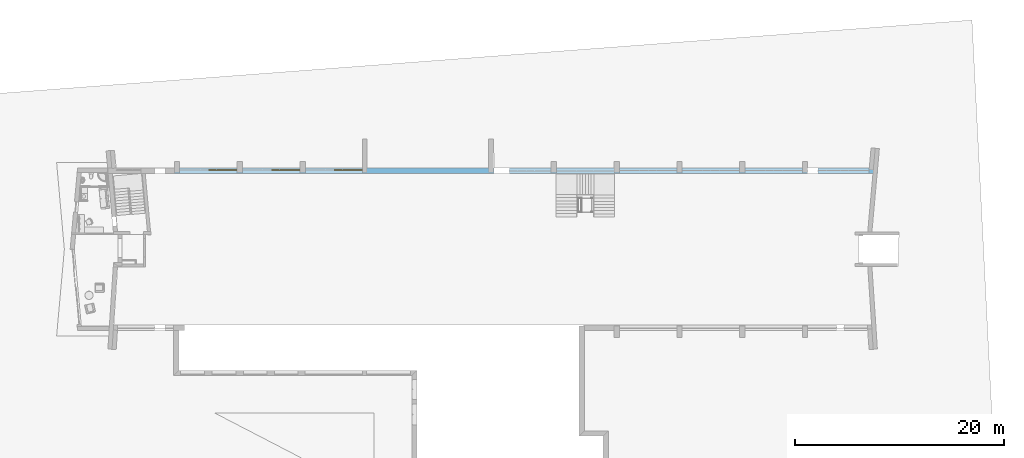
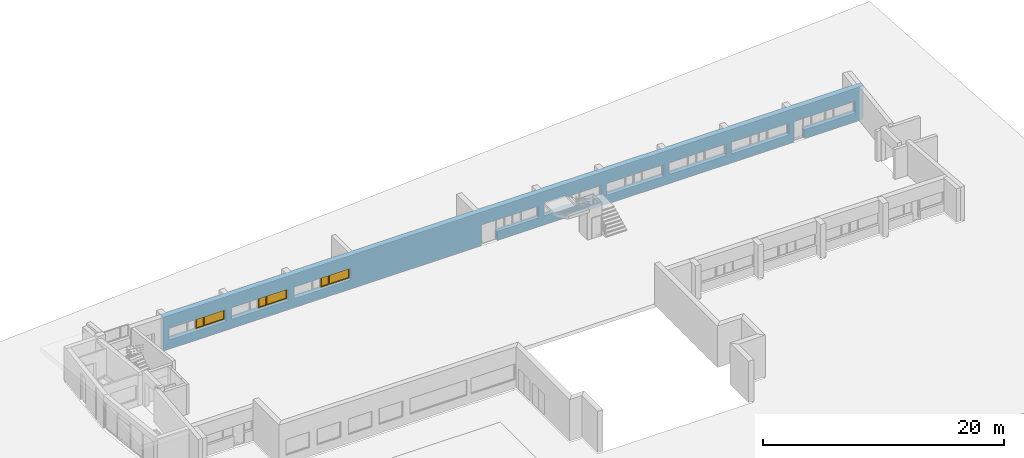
# One storey, part 6 of 36: 3 windows, 20 openings, plus 1 element that does not belong to this part.
"""IFC2X3 building model written with IfcOpenShell, lengths in millimetres."""

import ifcopenshell
import ifcopenshell.guid

model = None  # the IFC model being written
_history = None  # IfcOwnerHistory: only IFC2X3 demands one
_inside = {}  # id of a spatial element -> (the spatial element, [elements in it])
_under = {}  # id of a project, library or spatial element -> (it, [spatial elements below it])
_declared = {}  # id of a project -> (the project, [libraries it declares])
_typed = {}  # id of a type object -> (the type object, [elements of that type])
_made_of = {}  # id of a material, layer set ... -> (it, [elements and type objects made of it])


def new_model(schema):
    """Start an empty IFC model of exactly this schema.

    Asked for "IFC4X3", IfcOpenShell would pick the latest addendum, in which some entities
    have other attributes; the version numbers below select the first issue.
    IFC2X3 requires an IfcOwnerHistory on every rooted entity: one is made here for all.
    """
    global model, _history
    if schema == "IFC4X3":
        model = ifcopenshell.file(schema_version=(4, 3, 0, 0))
    else:
        model = ifcopenshell.file(schema=schema)
    _inside.clear()
    _under.clear()
    _declared.clear()
    _typed.clear()
    _made_of.clear()
    _history = None
    if model.schema == "IFC2X3":
        org = make("IfcOrganization", Name="unknown")
        user = make(
            "IfcPersonAndOrganization",
            ThePerson=make("IfcPerson", FamilyName="unknown"),
            TheOrganization=org,
        )
        app = make(
            "IfcApplication",
            ApplicationDeveloper=org,
            Version="unknown",
            ApplicationFullName="unknown",
            ApplicationIdentifier="unknown",
        )
        _history = make(
            "IfcOwnerHistory",
            OwningUser=user,
            OwningApplication=app,
            ChangeAction="ADDED",
            CreationDate=0,
        )
    return model


def make(cls, **values):
    """One entity of the class cls with the attributes given. An attribute that is None is left unset."""
    return model.create_entity(
        cls, **{name: value for name, value in values.items() if value is not None}
    )


def entity(cls, *values):
    """Any entity or typed value of the class cls, its attributes in the order of the schema. None: left unset."""
    e = model.create_entity(cls)
    for i, value in enumerate(values):
        if value is not None:
            e[i] = value
    return e


def rooted(cls, **values):
    """An entity with a GlobalId (a new one), such as an element, a storey or a relation."""
    return make(cls, GlobalId=ifcopenshell.guid.new(), OwnerHistory=_history, **values)


def si_unit(unit_type, name, prefix=None):
    """IfcSIUnit, for example si_unit("LENGTHUNIT", "METRE", prefix="MILLI")."""
    return make("IfcSIUnit", UnitType=unit_type, Prefix=prefix, Name=name)


def converted_unit(unit_type, name, factor, base, dimensions=None, offset=None):
    """IfcConversionBasedUnit, such as the inch: factor (a typed value) times the base unit."""
    return make(
        "IfcConversionBasedUnit"
        if offset is None
        else "IfcConversionBasedUnitWithOffset",
        ConversionOffset=offset,
        Dimensions=None
        if dimensions is None
        else entity("IfcDimensionalExponents", *dimensions),
        UnitType=unit_type,
        Name=name,
        ConversionFactor=make(
            "IfcMeasureWithUnit", ValueComponent=factor, UnitComponent=base
        ),
    )


def money_unit(currency):
    """IfcMonetaryUnit."""
    return make("IfcMonetaryUnit", Currency=currency)


def assignment(units):
    """IfcUnitAssignment: the units of a project."""
    return None if units is None else make("IfcUnitAssignment", Units=units)


def point(xyz):
    """IfcCartesianPoint."""
    return None if xyz is None else make("IfcCartesianPoint", Coordinates=xyz)


def direction(xyz):
    """IfcDirection."""
    return None if xyz is None else make("IfcDirection", DirectionRatios=xyz)


def frame(location, z_axis=None, x_axis=None):
    """IfcAxis2Placement3D, a coordinate frame: its origin and axes. An axis left out is left unset."""
    return make(
        "IfcAxis2Placement3D",
        Location=point(location),
        Axis=direction(z_axis),
        RefDirection=direction(x_axis),
    )


def origin_with_axes():
    """The frame at (0, 0, 0) with the z axis (0, 0, 1) and the x axis (1, 0, 0) written out."""
    return frame((0.0, 0.0, 0.0), z_axis=(0.0, 0.0, 1.0), x_axis=(1.0, 0.0, 0.0))


def place(relative_to, where):
    """IfcLocalPlacement: puts the frame where relative to a parent placement (None: the world)."""
    return make(
        "IfcLocalPlacement", PlacementRelTo=relative_to, RelativePlacement=where
    )


def context(
    kind, dimensions, precision=None, world=None, true_north=None, identifier=None
):
    """IfcGeometricRepresentationContext, for example the 3D "Model" context."""
    return make(
        "IfcGeometricRepresentationContext",
        ContextIdentifier=identifier,
        ContextType=kind,
        CoordinateSpaceDimension=dimensions,
        Precision=precision,
        WorldCoordinateSystem=world,
        TrueNorth=true_north,
    )


def subcontext(parent, identifier, kind, view, scale=None):
    """IfcGeometricRepresentationSubContext, for example "Body" below "Model"."""
    return make(
        "IfcGeometricRepresentationSubContext",
        ContextIdentifier=identifier,
        ContextType=kind,
        ParentContext=parent,
        TargetScale=scale,
        TargetView=view,
    )


def project(units=None, contexts=None):
    """IfcProject with its units and contexts."""
    return rooted(
        "IfcProject",
        Name="project",
        RepresentationContexts=contexts,
        UnitsInContext=assignment(units),
    )


def spatial(cls, under=None, at=None, **own):
    """A site, building, storey or space (cls), placed at a placement, below another one or the project."""
    s = rooted(cls, ObjectPlacement=at, **own)
    if under is not None:
        _under.setdefault(under.id(), (under, []))[1].append(s)
    return s


def polyline(points):
    """IfcPolyline through the points."""
    return make("IfcPolyline", Points=[point(p) for p in points])


def outline(outer, holes=None, kind="AREA"):
    """IfcArbitraryClosedProfileDef: a profile drawn as a closed curve; with holes, ...WithVoids."""
    if holes is None:
        return make("IfcArbitraryClosedProfileDef", ProfileType=kind, OuterCurve=outer)
    return make(
        "IfcArbitraryProfileDefWithVoids",
        ProfileType=kind,
        OuterCurve=outer,
        InnerCurves=holes,
    )


def extrude(swept, where, along, depth):
    """IfcExtrudedAreaSolid: the profile swept, set in the frame where, extruded along a direction by depth."""
    return make(
        "IfcExtrudedAreaSolid",
        SweptArea=swept,
        Position=where,
        ExtrudedDirection=direction(along),
        Depth=depth,
    )


def faces_of(points, faces, orient=None, outer=None):
    """IfcFace entities. A face is a list of loops; a loop is a list of indices into points, from 0.

    orient and outer hold one flag for each loop. By default every Orientation is true, the
    first loop of a face is its IfcFaceOuterBound and the others are IfcFaceBound.
    """
    made = []
    for i, loops in enumerate(faces):
        bounds = []
        for j, loop in enumerate(loops):
            is_outer = j == 0 if outer is None else outer[i][j]
            bounds.append(
                make(
                    "IfcFaceOuterBound" if is_outer else "IfcFaceBound",
                    Bound=make("IfcPolyLoop", Polygon=[points[k] for k in loop]),
                    Orientation=True if orient is None else orient[i][j],
                )
            )
        made.append(make("IfcFace", Bounds=bounds))
    return made


def open_shell(faces, orient=None, outer=None):
    """The faces of one IfcOpenShell. surface_model builds it on its shared points."""
    return ("IfcOpenShell", faces, orient, outer)


def faceted_brep(points, faces, orient=None, outer=None, voids=None):
    """IfcFacetedBrep: a solid bounded by flat faces; with voids (closed shells), ...WithVoids."""
    shared = [point(p) for p in points]
    hull = make("IfcClosedShell", CfsFaces=faces_of(shared, faces, orient, outer))
    if voids is None:
        return make("IfcFacetedBrep", Outer=hull)
    return make(
        "IfcFacetedBrepWithVoids",
        Outer=hull,
        Voids=[
            make(cls, CfsFaces=faces_of(shared, fs, o, b)) for cls, fs, o, b in voids
        ],
    )


def surface_model(cls, points, shells):
    """IfcFaceBasedSurfaceModel or IfcShellBasedSurfaceModel (cls): surfaces that need not close."""
    shared = [point(p) for p in points]
    made = [make(c, CfsFaces=faces_of(shared, fs, o, b)) for c, fs, o, b in shells]
    if cls == "IfcFaceBasedSurfaceModel":
        return make(cls, FbsmFaces=made)
    return make(cls, SbsmBoundary=made)


def shape(context_of_items, identifier, shape_type, items):
    """IfcShapeRepresentation: the items that make up one representation, for example the "Body"."""
    return make(
        "IfcShapeRepresentation",
        ContextOfItems=context_of_items,
        RepresentationIdentifier=identifier,
        RepresentationType=shape_type,
        Items=items,
    )


def source(mapping_origin, context_of_items, identifier, shape_type, items):
    """IfcRepresentationMap: a shape defined once, which mapped items show again and again."""
    return make(
        "IfcRepresentationMap",
        MappingOrigin=mapping_origin,
        MappedRepresentation=shape(context_of_items, identifier, shape_type, items),
    )


def transform(
    local_origin,
    x_axis=None,
    y_axis=None,
    z_axis=None,
    scale=None,
    scale2=None,
    scale3=None,
    uniform=True,
):
    """IfcCartesianTransformationOperator3D, or its non-uniform kind. x_axis, y_axis, z_axis: its Axis1, 2, 3."""
    if uniform:
        return make(
            "IfcCartesianTransformationOperator3D",
            Axis1=direction(x_axis),
            Axis2=direction(y_axis),
            LocalOrigin=point(local_origin),
            Scale=scale,
            Axis3=direction(z_axis),
        )
    return make(
        "IfcCartesianTransformationOperator3DnonUniform",
        Axis1=direction(x_axis),
        Axis2=direction(y_axis),
        LocalOrigin=point(local_origin),
        Scale=scale,
        Axis3=direction(z_axis),
        Scale2=scale2,
        Scale3=scale3,
    )


def mapped(mapping_source, mapping_target):
    """IfcMappedItem: shows the shape of a source again, moved by a transform."""
    return make(
        "IfcMappedItem", MappingSource=mapping_source, MappingTarget=mapping_target
    )


def material(Name=None, Category=None):
    """IfcMaterial."""
    return make("IfcMaterial", Name=Name, Category=Category)


def material_list(materials):
    """IfcMaterialList."""
    return make("IfcMaterialList", Materials=materials)


def layer(
    of_material, thickness, ventilated=None, Name=None, Category=None, Priority=None
):
    """IfcMaterialLayer: one layer of a wall or slab, of a material (None: an air gap)."""
    return make(
        "IfcMaterialLayer",
        Material=of_material,
        LayerThickness=thickness,
        IsVentilated=ventilated,
        Name=Name,
        Category=Category,
        Priority=Priority,
    )


def layer_set(layers, Name=None):
    """IfcMaterialLayerSet."""
    return make("IfcMaterialLayerSet", MaterialLayers=layers, LayerSetName=Name)


def layer_usage(for_layer_set, set_direction, sense, offset, extent=None):
    """IfcMaterialLayerSetUsage: how a layer set lies in its element."""
    return make(
        "IfcMaterialLayerSetUsage",
        ForLayerSet=for_layer_set,
        LayerSetDirection=set_direction,
        DirectionSense=sense,
        OffsetFromReferenceLine=offset,
        ReferenceExtent=extent,
    )


def made_of(thing, what):
    """Note that an element or type object is made of a material, layer set ...; save() writes the relation."""
    if what is not None:
        _made_of.setdefault(what.id(), (what, []))[1].append(thing)
    return thing


def type_object(cls, material=None, **own):
    """A type object (cls), such as IfcWallType, which elements share."""
    return made_of(rooted(cls, **own), material)


def element(
    cls,
    number,
    at=None,
    inside=None,
    cuts=None,
    type_object=None,
    material=None,
    context=None,
    identifier="Body",
    shape_type=None,
    held_by="IfcProductDefinitionShape",
    body=None,
    shapes=None,
    **own,
):
    """One element of the class cls, such as IfcWall. Its Tag is "e" and its number.

    at: its placement. inside: the storey or other place that contains it. cuts: it is an
    opening in that element (IfcRelVoidsElement). A single representation is given by context,
    identifier, shape_type and body (its items); several are given by shapes. held_by: the class
    of the entity that holds the representations. save() writes the other relations.
    """
    e = rooted(cls, Tag="e%d" % number, ObjectPlacement=at, **own)
    if body is not None:
        shapes = [shape(context, identifier, shape_type, body)]
    if shapes is not None:
        e.Representation = make(held_by, Representations=shapes)
    if inside is not None:
        _inside.setdefault(inside.id(), (inside, []))[1].append(e)
    if cuts is not None:
        rooted(
            "IfcRelVoidsElement", RelatingBuildingElement=cuts, RelatedOpeningElement=e
        )
    if type_object is not None:
        _typed.setdefault(type_object.id(), (type_object, []))[1].append(e)
    return made_of(e, material)


def fill(opening, filler):
    """IfcRelFillsElement: the door or window that sits in an opening."""
    return rooted(
        "IfcRelFillsElement",
        RelatingOpeningElement=opening,
        RelatedBuildingElement=filler,
    )


def aggregate(whole, parts):
    """IfcRelAggregates: a whole, such as a stair, and the parts it consists of."""
    return rooted("IfcRelAggregates", RelatingObject=whole, RelatedObjects=parts)


def save(model, path):
    """Write the relations noted so far, then the file.

    IfcRelAggregates (storeys below a building ...), IfcRelContainedInSpatialStructure (elements
    in a storey), IfcRelDefinesByType, IfcRelAssociatesMaterial and IfcRelDeclares: one each for
    every whole, place, type object, material and project.
    """
    for whole, parts in _under.values():
        aggregate(whole, parts)
    for where, things in _inside.values():
        rooted(
            "IfcRelContainedInSpatialStructure",
            RelatedElements=things,
            RelatingStructure=where,
        )
    for kind, things in _typed.values():
        rooted("IfcRelDefinesByType", RelatedObjects=things, RelatingType=kind)
    for what, things in _made_of.values():
        rooted("IfcRelAssociatesMaterial", RelatedObjects=things, RelatingMaterial=what)
    for by, libraries in _declared.values():
        rooted("IfcRelDeclares", RelatingContext=by, RelatedDefinitions=libraries)
    model.write(path)


model = new_model("IFC2X3")

# Units and contexts
model_context = context("Model", 3, precision=1e-05, world=origin_with_axes(), true_north=direction((0.0, 1.0)))
body_context = subcontext(model_context, "Body", "Model", "MODEL_VIEW")
ifc_project = project(units=[si_unit("LENGTHUNIT", "METRE", prefix="MILLI"), si_unit("AREAUNIT", "SQUARE_METRE"), si_unit("VOLUMEUNIT", "CUBIC_METRE"), converted_unit("PLANEANGLEUNIT", "DEGREE", entity("IfcPlaneAngleMeasure", 0.0174532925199), si_unit("PLANEANGLEUNIT", "RADIAN"), dimensions=[0, 0, 0, 0, 0, 0, 0]), si_unit("SOLIDANGLEUNIT", "STERADIAN"), money_unit("USD"), converted_unit("TIMEUNIT", "Year", entity("IfcTimeMeasure", 31556926.0), si_unit("TIMEUNIT", "SECOND"), dimensions=[0, 0, 0, 0, 0, 0, 0]), si_unit("MASSUNIT", "GRAM"), si_unit("THERMODYNAMICTEMPERATUREUNIT", "DEGREE_CELSIUS"), si_unit("LUMINOUSINTENSITYUNIT", "LUMEN")], contexts=[model_context])

# Site, building, storey
site_placement = place(None, origin_with_axes())
site = spatial("IfcSite", under=ifc_project, at=site_placement, Name="Site", CompositionType="ELEMENT")
building_placement = place(site_placement, origin_with_axes())
building = spatial("IfcBuilding", under=site, at=building_placement, Name="Building", CompositionType="ELEMENT")
storey_placement = place(building_placement, frame((0.0, 0.0, -3400.0), z_axis=(0.0, 0.0, 1.0), x_axis=(1.0, 0.0, 0.0)))
storey = spatial("IfcBuildingStorey", under=building, at=storey_placement, Name="1KORRUS", CompositionType="ELEMENT", Elevation=-3400.0)

# Wall, openings, windows
ifc_material_1 = material(Name="Olemasolevad seinad tellis, uus viimistlus")
ifc_layer = layer(ifc_material_1, 500.0, ventilated="UNKNOWN")
ifc_layer_set = layer_set([ifc_layer], Name="Olemasolevad seinad tellis, uus viimistlus 500")
ifc_layer_usage = layer_usage(ifc_layer_set, "AXIS2", "POSITIVE", -100.0)
wall_type = type_object("IfcWallType", Name="Olemasolevad seinad tellis, uus viimistlus 500", PredefinedType="NOTDEFINED")
wall_placement = place(storey_placement, frame((-48393.8274049, -5039.6041088, 0.0), z_axis=(0.0, 0.0, 1.0), x_axis=(1.0, 0.0, 0.0)))
wall = element("IfcWallStandardCase", 1, at=wall_placement, inside=storey, type_object=wall_type, material=ifc_layer_usage, Name="VS1", ObjectType="VS1", context=body_context, shape_type="SweptSolid", body=[
    extrude(outline(polyline([(0.0, -100.0), (67149.8194303, -100.0), (67149.8194303, 400.0), (0.0, 400.0), (0.0, -100.0)])), origin_with_axes(), (0.0, 0.0, 1.0), 3400.0),
])
opening_1_placement = place(wall_placement, frame((1878.53070154, 0.0, 900.0), z_axis=(0.0, 0.0, 1.0), x_axis=(1.0, 0.0, 0.0)))
element("IfcOpeningElement", 2, at=opening_1_placement, cuts=wall, Name="Olemasolevad aknad jäävad", context=body_context, shape_type="SweptSolid", body=[
    extrude(outline(polyline([(-1375.0, 1200.0), (-1375.0, 0.0), (1375.0, 0.0), (1375.0, 1200.0), (-1375.0, 1200.0)])), frame((0.0, 250.0, 0.0), z_axis=(0.0, -1.0, 0.0), x_axis=(1.0, 0.0, 0.0)), (0.0, 0.0, 1.0), 850.0),
    extrude(outline(polyline([(-1375.0, 0.0), (-1375.0, -1200.0), (1375.0, -1200.0), (1375.0, 0.0), (-1375.0, 0.0)])), frame((0.0, 250.0, 0.0), z_axis=(0.0, 1.0, 0.0), x_axis=(1.0, 0.0, 0.0)), (0.0, 0.0, 1.0), 650.0),
])
opening_2_placement = place(wall_placement, frame((7878.53070154, 0.0, 900.0), z_axis=(0.0, 0.0, 1.0), x_axis=(1.0, 0.0, 0.0)))
element("IfcOpeningElement", 3, at=opening_2_placement, cuts=wall, Name="Olemasolevad aknad jäävad", context=body_context, shape_type="SweptSolid", body=[
    extrude(outline(polyline([(-1375.0, 1200.0), (-1375.0, 0.0), (1375.0, 0.0), (1375.0, 1200.0), (-1375.0, 1200.0)])), frame((0.0, 250.0, 0.0), z_axis=(0.0, -1.0, 0.0), x_axis=(1.0, 0.0, 0.0)), (0.0, 0.0, 1.0), 850.0),
    extrude(outline(polyline([(-1375.0, 0.0), (-1375.0, -1200.0), (1375.0, -1200.0), (1375.0, 0.0), (-1375.0, 0.0)])), frame((0.0, 250.0, 0.0), z_axis=(0.0, 1.0, 0.0), x_axis=(1.0, 0.0, 0.0)), (0.0, 0.0, 1.0), 650.0),
])
opening_3_placement = place(wall_placement, frame((13878.5307015, 0.0, 900.0), z_axis=(0.0, 0.0, 1.0), x_axis=(1.0, 0.0, 0.0)))
element("IfcOpeningElement", 4, at=opening_3_placement, cuts=wall, Name="Olemasolevad aknad jäävad", context=body_context, shape_type="SweptSolid", body=[
    extrude(outline(polyline([(-1375.0, 1200.0), (-1375.0, 0.0), (1375.0, 0.0), (1375.0, 1200.0), (-1375.0, 1200.0)])), frame((0.0, 250.0, 0.0), z_axis=(0.0, -1.0, 0.0), x_axis=(1.0, 0.0, 0.0)), (0.0, 0.0, 1.0), 850.0),
    extrude(outline(polyline([(-1375.0, 0.0), (-1375.0, -1200.0), (1375.0, -1200.0), (1375.0, 0.0), (-1375.0, 0.0)])), frame((0.0, 250.0, 0.0), z_axis=(0.0, 1.0, 0.0), x_axis=(1.0, 0.0, 0.0)), (0.0, 0.0, 1.0), 650.0),
])
opening_4_placement = place(wall_placement, frame((4628.53070154, 0.0, 900.0), z_axis=(0.0, 0.0, 1.0), x_axis=(1.0, 0.0, 0.0)))
opening_4 = element("IfcOpeningElement", 5, at=opening_4_placement, cuts=wall, Name="Olemasolevad aknad jäävad", context=body_context, shape_type="SweptSolid", body=[
    extrude(outline(polyline([(1375.0, 1200.0), (-1375.0, 1200.0), (-1375.0, 0.0), (1375.0, 0.0), (1375.0, 1200.0)])), frame((0.0, 250.0, 0.0), z_axis=(0.0, -1.0, 0.0), x_axis=(1.0, 0.0, 0.0)), (0.0, 0.0, 1.0), 850.0),
    extrude(outline(polyline([(1375.0, 0.0), (-1375.0, 0.0), (-1375.0, -1200.0), (1375.0, -1200.0), (1375.0, 0.0)])), frame((0.0, 250.0, 0.0), z_axis=(0.0, 1.0, 0.0), x_axis=(1.0, 0.0, 0.0)), (0.0, 0.0, 1.0), 650.0),
])
opening_5_placement = place(wall_placement, frame((10628.5307015, 0.0, 900.0), z_axis=(0.0, 0.0, 1.0), x_axis=(1.0, 0.0, 0.0)))
opening_5 = element("IfcOpeningElement", 6, at=opening_5_placement, cuts=wall, Name="Olemasolevad aknad jäävad", context=body_context, shape_type="SweptSolid", body=[
    extrude(outline(polyline([(1375.0, 1200.0), (-1375.0, 1200.0), (-1375.0, 0.0), (1375.0, 0.0), (1375.0, 1200.0)])), frame((0.0, 250.0, 0.0), z_axis=(0.0, -1.0, 0.0), x_axis=(1.0, 0.0, 0.0)), (0.0, 0.0, 1.0), 850.0),
    extrude(outline(polyline([(1375.0, 0.0), (-1375.0, 0.0), (-1375.0, -1200.0), (1375.0, -1200.0), (1375.0, 0.0)])), frame((0.0, 250.0, 0.0), z_axis=(0.0, 1.0, 0.0), x_axis=(1.0, 0.0, 0.0)), (0.0, 0.0, 1.0), 650.0),
])
opening_6_placement = place(wall_placement, frame((16616.9651775, 0.0, 900.0), z_axis=(0.0, 0.0, 1.0), x_axis=(1.0, 0.0, 0.0)))
opening_6 = element("IfcOpeningElement", 7, at=opening_6_placement, cuts=wall, Name="Olemasolevad aknad jäävad", context=body_context, shape_type="SweptSolid", body=[
    extrude(outline(polyline([(1375.0, 1200.0), (-1375.0, 1200.0), (-1375.0, 0.0), (1375.0, 0.0), (1375.0, 1200.0)])), frame((0.0, 250.0, 0.0), z_axis=(0.0, -1.0, 0.0), x_axis=(1.0, 0.0, 0.0)), (0.0, 0.0, 1.0), 850.0),
    extrude(outline(polyline([(1375.0, 0.0), (-1375.0, 0.0), (-1375.0, -1200.0), (1375.0, -1200.0), (1375.0, 0.0)])), frame((0.0, 250.0, 0.0), z_axis=(0.0, 1.0, 0.0), x_axis=(1.0, 0.0, 0.0)), (0.0, 0.0, 1.0), 650.0),
])
opening_7_placement = place(wall_placement, frame((34803.5307015, 0.0, 900.0), z_axis=(0.0, 0.0, 1.0), x_axis=(1.0, 0.0, 0.0)))
element("IfcOpeningElement", 8, at=opening_7_placement, cuts=wall, Name="Olemasolevad aknad jäävad", context=body_context, shape_type="SweptSolid", body=[
    extrude(outline(polyline([(1200.0, 0.0), (-1200.0, 0.0), (-1200.0, -1200.0), (1200.0, -1200.0), (1200.0, 0.0)])), frame((0.0, 100.0, 0.0), z_axis=(0.0, 1.0, 0.0), x_axis=(1.0, 0.0, 0.0)), (0.0, 0.0, 1.0), 800.0),
    extrude(outline(polyline([(1200.0, 1200.0), (-1200.0, 1200.0), (-1200.0, 0.0), (1200.0, 0.0), (1200.0, 1200.0)])), frame((0.0, 100.0, 0.0), z_axis=(0.0, -1.0, 0.0), x_axis=(1.0, 0.0, 0.0)), (0.0, 0.0, 1.0), 700.0),
])
opening_8_placement = place(wall_placement, frame((40625.1633636, 0.0, 900.0), z_axis=(0.0, 0.0, 1.0), x_axis=(1.0, 0.0, 0.0)))
element("IfcOpeningElement", 9, at=opening_8_placement, cuts=wall, Name="Olemasolevad aknad jäävad", context=body_context, shape_type="SweptSolid", body=[
    extrude(outline(polyline([(1400.0, 0.0), (-1400.0, 0.0), (-1400.0, -1200.0), (1400.0, -1200.0), (1400.0, 0.0)])), frame((0.0, 100.0, 0.0), z_axis=(0.0, 1.0, 0.0), x_axis=(1.0, 0.0, 0.0)), (0.0, 0.0, 1.0), 800.0),
    extrude(outline(polyline([(1400.0, 1200.0), (-1400.0, 1200.0), (-1400.0, 0.0), (1400.0, 0.0), (1400.0, 1200.0)])), frame((0.0, 100.0, 0.0), z_axis=(0.0, -1.0, 0.0), x_axis=(1.0, 0.0, 0.0)), (0.0, 0.0, 1.0), 700.0),
])
opening_9_placement = place(wall_placement, frame((37871.3218818, 0.0, 900.0), z_axis=(0.0, 0.0, 1.0), x_axis=(1.0, 0.0, 0.0)))
element("IfcOpeningElement", 10, at=opening_9_placement, cuts=wall, Name="Olemasolevad aknad jäävad", context=body_context, shape_type="SweptSolid", body=[
    extrude(outline(polyline([(-1367.791, 0.0), (-1367.791, -1200.0), (1367.791, -1200.0), (1367.791, 0.0), (-1367.791, 0.0)])), frame((0.0, 150.0, 0.0), z_axis=(0.0, 1.0, 0.0), x_axis=(1.0, 0.0, 0.0)), (0.0, 0.0, 1.0), 750.0),
    extrude(outline(polyline([(-1367.791, 1200.0), (-1367.791, 0.0), (1367.791, 0.0), (1367.791, 1200.0), (-1367.791, 1200.0)])), frame((0.0, 150.0, 0.0), z_axis=(0.0, -1.0, 0.0), x_axis=(1.0, 0.0, 0.0)), (0.0, 0.0, 1.0), 750.0),
])
opening_10_placement = place(wall_placement, frame((46628.5307015, 0.0, 900.0), z_axis=(0.0, 0.0, 1.0), x_axis=(1.0, 0.0, 0.0)))
element("IfcOpeningElement", 11, at=opening_10_placement, cuts=wall, Name="Olemasolevad aknad jäävad", context=body_context, shape_type="SweptSolid", body=[
    extrude(outline(polyline([(1375.0, 1200.0), (-1375.0, 1200.0), (-1375.0, 0.0), (1375.0, 0.0), (1375.0, 1200.0)])), frame((0.0, 150.0, 0.0), z_axis=(0.0, -1.0, 0.0), x_axis=(1.0, 0.0, 0.0)), (0.0, 0.0, 1.0), 750.0),
    extrude(outline(polyline([(1375.0, 0.0), (-1375.0, 0.0), (-1375.0, -1200.0), (1375.0, -1200.0), (1375.0, 0.0)])), frame((0.0, 150.0, 0.0), z_axis=(0.0, 1.0, 0.0), x_axis=(1.0, 0.0, 0.0)), (0.0, 0.0, 1.0), 750.0),
])
opening_11_placement = place(wall_placement, frame((43878.5307015, 0.0, 900.0), z_axis=(0.0, 0.0, 1.0), x_axis=(1.0, 0.0, 0.0)))
element("IfcOpeningElement", 12, at=opening_11_placement, cuts=wall, Name="Olemasolevad aknad jäävad", context=body_context, shape_type="SweptSolid", body=[
    extrude(outline(polyline([(-1375.0, 1200.0), (-1375.0, 0.0), (1375.0, 0.0), (1375.0, 1200.0), (-1375.0, 1200.0)])), frame((0.0, 200.0, 0.0), z_axis=(0.0, -1.0, 0.0), x_axis=(1.0, 0.0, 0.0)), (0.0, 0.0, 1.0), 800.0),
    extrude(outline(polyline([(-1375.0, 0.0), (-1375.0, -1200.0), (1375.0, -1200.0), (1375.0, 0.0), (-1375.0, 0.0)])), frame((0.0, 200.0, 0.0), z_axis=(0.0, 1.0, 0.0), x_axis=(1.0, 0.0, 0.0)), (0.0, 0.0, 1.0), 700.0),
])
opening_12_placement = place(wall_placement, frame((52635.3834465, 0.0, 900.0), z_axis=(0.0, 0.0, 1.0), x_axis=(1.0, 0.0, 0.0)))
element("IfcOpeningElement", 13, at=opening_12_placement, cuts=wall, Name="Olemasolevad aknad jäävad", context=body_context, shape_type="SweptSolid", body=[
    extrude(outline(polyline([(1376.809, 1200.0), (-1376.809, 1200.0), (-1376.809, 0.0), (1376.809, 0.0), (1376.809, 1200.0)])), frame((0.0, 150.0, 0.0), z_axis=(0.0, -1.0, 0.0), x_axis=(1.0, 0.0, 0.0)), (0.0, 0.0, 1.0), 750.0),
    extrude(outline(polyline([(1376.809, 0.0), (-1376.809, 0.0), (-1376.809, -1200.0), (1376.809, -1200.0), (1376.809, 0.0)])), frame((0.0, 150.0, 0.0), z_axis=(0.0, 1.0, 0.0), x_axis=(1.0, 0.0, 0.0)), (0.0, 0.0, 1.0), 750.0),
])
opening_13_placement = place(wall_placement, frame((49883.9987013, 0.0, 900.0), z_axis=(0.0, 0.0, 1.0), x_axis=(1.0, 0.0, 0.0)))
element("IfcOpeningElement", 14, at=opening_13_placement, cuts=wall, Name="Olemasolevad aknad jäävad", context=body_context, shape_type="SweptSolid", body=[
    extrude(outline(polyline([(-1375.0, 1200.0), (-1375.0, 0.0), (1375.0, 0.0), (1375.0, 1200.0), (-1375.0, 1200.0)])), frame((0.0, 200.0, 0.0), z_axis=(0.0, -1.0, 0.0), x_axis=(1.0, 0.0, 0.0)), (0.0, 0.0, 1.0), 800.0),
    extrude(outline(polyline([(-1375.0, 0.0), (-1375.0, -1200.0), (1375.0, -1200.0), (1375.0, 0.0), (-1375.0, 0.0)])), frame((0.0, 200.0, 0.0), z_axis=(0.0, 1.0, 0.0), x_axis=(1.0, 0.0, 0.0)), (0.0, 0.0, 1.0), 700.0),
])
opening_14_placement = place(wall_placement, frame((58631.8843372, 0.0, 900.0), z_axis=(0.0, 0.0, 1.0), x_axis=(1.0, 0.0, 0.0)))
element("IfcOpeningElement", 15, at=opening_14_placement, cuts=wall, Name="Olemasolevad aknad jäävad", context=body_context, shape_type="SweptSolid", body=[
    extrude(outline(polyline([(1371.646, 1200.0), (-1371.646, 1200.0), (-1371.646, 0.0), (1371.646, 0.0), (1371.646, 1200.0)])), frame((0.0, 150.0, 0.0), z_axis=(0.0, -1.0, 0.0), x_axis=(1.0, 0.0, 0.0)), (0.0, 0.0, 1.0), 750.0),
    extrude(outline(polyline([(1371.646, 0.0), (-1371.646, 0.0), (-1371.646, -1200.0), (1371.646, -1200.0), (1371.646, 0.0)])), frame((0.0, 150.0, 0.0), z_axis=(0.0, 1.0, 0.0), x_axis=(1.0, 0.0, 0.0)), (0.0, 0.0, 1.0), 750.0),
])
opening_15_placement = place(wall_placement, frame((55886.6217615, 0.0, 900.0), z_axis=(0.0, 0.0, 1.0), x_axis=(1.0, 0.0, 0.0)))
element("IfcOpeningElement", 16, at=opening_15_placement, cuts=wall, Name="Olemasolevad aknad jäävad", context=body_context, shape_type="SweptSolid", body=[
    extrude(outline(polyline([(-1375.0, 1200.0), (-1375.0, 0.0), (1375.0, 0.0), (1375.0, 1200.0), (-1375.0, 1200.0)])), frame((0.0, 200.0, 0.0), z_axis=(0.0, -1.0, 0.0), x_axis=(1.0, 0.0, 0.0)), (0.0, 0.0, 1.0), 800.0),
    extrude(outline(polyline([(-1375.0, 0.0), (-1375.0, -1200.0), (1375.0, -1200.0), (1375.0, 0.0), (-1375.0, 0.0)])), frame((0.0, 200.0, 0.0), z_axis=(0.0, 1.0, 0.0), x_axis=(1.0, 0.0, 0.0)), (0.0, 0.0, 1.0), 700.0),
])
opening_16_placement = place(wall_placement, frame((64995.2517085, 0.0, 900.0), z_axis=(0.0, 0.0, 1.0), x_axis=(1.0, 0.0, 0.0)))
element("IfcOpeningElement", 17, at=opening_16_placement, cuts=wall, Name="Olemasolevad aknad jäävad", context=body_context, shape_type="SweptSolid", body=[
    extrude(outline(polyline([(1375.0, 1200.0), (-1375.0, 1200.0), (-1375.0, 0.0), (1375.0, 0.0), (1375.0, 1200.0)])), frame((0.0, 150.0, 0.0), z_axis=(0.0, -1.0, 0.0), x_axis=(1.0, 0.0, 0.0)), (0.0, 0.0, 1.0), 750.0),
    extrude(outline(polyline([(1375.0, 0.0), (-1375.0, 0.0), (-1375.0, -1200.0), (1375.0, -1200.0), (1375.0, 0.0)])), frame((0.0, 150.0, 0.0), z_axis=(0.0, 1.0, 0.0), x_axis=(1.0, 0.0, 0.0)), (0.0, 0.0, 1.0), 750.0),
])
opening_17_placement = place(wall_placement, frame((32810.8244307, 0.0, 900.0), z_axis=(0.0, 0.0, 1.0), x_axis=(1.0, 0.0, 0.0)))
element("IfcOpeningElement", 18, at=opening_17_placement, cuts=wall, Name="Olemasolevad aknad jäävad", context=body_context, shape_type="SweptSolid", body=[
    extrude(outline(polyline([(792.706, 0.0), (-792.706, 0.0), (-792.706, -1200.0), (792.706, -1200.0), (792.706, 0.0)])), frame((0.0, 100.0, 0.0), z_axis=(0.0, 1.0, 0.0), x_axis=(1.0, 0.0, 0.0)), (0.0, 0.0, 1.0), 800.0),
    extrude(outline(polyline([(792.706, 1200.0), (-792.706, 1200.0), (-792.706, 0.0), (792.706, 0.0), (792.706, 1200.0)])), frame((0.0, 100.0, 0.0), z_axis=(0.0, -1.0, 0.0), x_axis=(1.0, 0.0, 0.0)), (0.0, 0.0, 1.0), 700.0),
])
opening_18_placement = place(wall_placement, frame((62561.891205, 0.0, 900.0), z_axis=(0.0, 0.0, 1.0), x_axis=(1.0, 0.0, 0.0)))
element("IfcOpeningElement", 19, at=opening_18_placement, cuts=wall, Name="Olemasolevad aknad jäävad", context=body_context, shape_type="SweptSolid", body=[
    extrude(outline(polyline([(1058.361, 1200.0), (-1058.361, 1200.0), (-1058.361, 0.0), (1058.361, 0.0), (1058.361, 1200.0)])), frame((0.0, 150.0, 0.0), z_axis=(0.0, -1.0, 0.0), x_axis=(1.0, 0.0, 0.0)), (0.0, 0.0, 1.0), 750.0),
    extrude(outline(polyline([(1058.361, 0.0), (-1058.361, 0.0), (-1058.361, -1200.0), (1058.361, -1200.0), (1058.361, 0.0)])), frame((0.0, 150.0, 0.0), z_axis=(0.0, 1.0, 0.0), x_axis=(1.0, 0.0, 0.0)), (0.0, 0.0, 1.0), 750.0),
])
opening_19_placement = place(wall_placement, frame((61003.5307015, 0.0, -4.66441168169), z_axis=(0.0, 0.0, 1.0), x_axis=(1.0, 0.0, 0.0)))
element("IfcOpeningElement", 20, at=opening_19_placement, cuts=wall, Name="ava", context=body_context, shape_type="SweptSolid", body=[
    extrude(outline(polyline([(-500.0, 2100.0), (-500.0, 0.0), (500.0, 0.0), (500.0, 2100.0), (-500.0, 2100.0)])), frame((0.0, 200.0, 0.0), z_axis=(0.0, 1.0, 0.0), x_axis=(-1.0, 0.0, 0.0)), (0.0, 0.0, -1.0), 800.0),
    extrude(outline(polyline([(-500.0, 0.0), (-500.0, -2100.0), (500.0, -2100.0), (500.0, 0.0), (-500.0, 0.0)])), frame((0.0, 200.0, 0.0), z_axis=(0.0, -1.0, 0.0), x_axis=(-1.0, 0.0, 0.0)), (0.0, 0.0, -1.0), 700.0),
])
opening_20_placement = place(wall_placement, frame((31268.1181599, 0.0, 0.0), z_axis=(0.0, 0.0, 1.0), x_axis=(1.0, 0.0, 0.0)))
element("IfcOpeningElement", 21, at=opening_20_placement, cuts=wall, Name="ava", context=body_context, shape_type="SweptSolid", body=[
    extrude(outline(polyline([(-750.0, 2100.0), (-750.0, 0.0), (750.0, 0.0), (750.0, 2100.0), (-750.0, 2100.0)])), frame((0.0, 200.0, 0.0), z_axis=(0.0, -1.0, 0.0), x_axis=(1.0, 0.0, 0.0)), (0.0, 0.0, 1.0), 800.0),
    extrude(outline(polyline([(-750.0, 0.0), (-750.0, -2100.0), (750.0, -2100.0), (750.0, 0.0), (-750.0, 0.0)])), frame((0.0, 200.0, 0.0), z_axis=(0.0, 1.0, 0.0), x_axis=(1.0, 0.0, 0.0)), (0.0, 0.0, 1.0), 700.0),
])
ifc_material_2 = material(Name="Background")
ifc_material_list = material_list([ifc_material_2])
window_style = type_object("IfcWindowStyle", Name="Double Window 19", ConstructionType="NOTDEFINED", OperationType="DOUBLE_PANEL_VERTICAL", ParameterTakesPrecedence=False, Sizeable=False)
shared_shape = source(origin_with_axes(), body_context, "Body", "SurfaceModel", [
    faceted_brep([(1350.0, -150.0, 1150.0), (1350.0, -175.0, 1150.0), (1325.0, -175.0, 1150.0), (1325.0, -200.0, 1150.0), (1375.0, -200.0, 1150.0), (1375.0, -150.0, 1150.0), (1350.0, -150.0, 50.0), (1350.0, -175.0, 50.0), (1325.0, -175.0, 50.0), (1325.0, -200.0, 50.0), (1375.0, -200.0, 50.0), (1375.0, -150.0, 50.0)], [[[0, 1, 2, 3, 4, 5]], [[1, 0, 6, 7]], [[8, 2, 1, 7]], [[2, 8, 9, 3]], [[4, 3, 9, 10]], [[5, 4, 10, 11]], [[6, 0, 5, 11]], [[7, 6, 11, 10, 9, 8]]]),
    faceted_brep([(-1325.0, -175.0, 1150.0), (-1350.0, -175.0, 1150.0), (-1350.0, -150.0, 1150.0), (-1375.0, -150.0, 1150.0), (-1375.0, -200.0, 1150.0), (-1325.0, -200.0, 1150.0), (-1325.0, -175.0, 50.0), (-1350.0, -175.0, 50.0), (-1350.0, -150.0, 50.0), (-1375.0, -150.0, 50.0), (-1375.0, -200.0, 50.0), (-1325.0, -200.0, 50.0)], [[[0, 1, 2, 3, 4, 5]], [[1, 0, 6, 7]], [[8, 2, 1, 7]], [[2, 8, 9, 3]], [[9, 10, 4, 3]], [[10, 11, 5, 4]], [[6, 0, 5, 11]], [[7, 6, 11, 10, 9, 8]]]),
    faceted_brep([(-525.0, -175.0, 1150.0), (-550.0, -175.0, 1150.0), (-550.0, -150.0, 1150.0), (-600.0, -150.0, 1150.0), (-600.0, -175.0, 1150.0), (-625.0, -175.0, 1150.0), (-625.0, -200.0, 1150.0), (-525.0, -200.0, 1150.0), (-525.0, -175.0, 50.0), (-550.0, -175.0, 50.0), (-550.0, -150.0, 50.0), (-600.0, -150.0, 50.0), (-600.0, -175.0, 50.0), (-625.0, -175.0, 50.0), (-625.0, -200.0, 50.0), (-525.0, -200.0, 50.0)], [[[0, 1, 2, 3, 4, 5, 6, 7]], [[1, 0, 8, 9]], [[10, 2, 1, 9]], [[2, 10, 11, 3]], [[4, 3, 11, 12]], [[13, 5, 4, 12]], [[5, 13, 14, 6]], [[14, 15, 7, 6]], [[8, 0, 7, 15]], [[9, 8, 15, 14, 13, 12, 11, 10]]]),
    faceted_brep([(-525.0, -175.0, 50.0), (-550.0, -175.0, 50.0), (-550.0, -150.0, 50.0), (-600.0, -150.0, 50.0), (-600.0, -175.0, 50.0), (-625.0, -175.0, 50.0), (-625.0, -200.0, 50.0), (-525.0, -200.0, 50.0), (1325.0, -175.0, 50.0), (1350.0, -175.0, 50.0), (1350.0, -175.0, 25.0), (-550.0, -175.0, 25.0), (-550.0, -150.0, 25.0), (1350.0, -150.0, 25.0), (1350.0, -150.0, 50.0), (1375.0, -150.0, 50.0), (1375.0, -150.0, 0.0), (-1375.0, -150.0, 0.0), (-1375.0, -150.0, 50.0), (-1350.0, -150.0, 50.0), (-1350.0, -150.0, 25.0), (-600.0, -150.0, 25.0), (-600.0, -175.0, 25.0), (-1350.0, -175.0, 50.0), (-1325.0, -175.0, 50.0), (-1350.0, -175.0, 25.0), (-1325.0, -200.0, 50.0), (1375.0, -200.0, 50.0), (1325.0, -200.0, 50.0), (-1375.0, -200.0, 50.0), (-1375.0, -200.0, 0.0), (1375.0, -200.0, 0.0)], [[[0, 1, 2, 3, 4, 5, 6, 7]], [[1, 0, 8, 9, 10, 11]], [[12, 2, 1, 11]], [[13, 14, 15, 16, 17, 18, 19, 20, 21, 3, 2, 12]], [[4, 3, 21, 22]], [[23, 24, 5, 4, 22, 25]], [[5, 24, 26, 6]], [[27, 28, 7, 6, 26, 29, 30, 31]], [[8, 0, 7, 28]], [[9, 8, 28, 27, 15, 14]], [[9, 14, 13, 10]], [[13, 12, 11, 10]], [[15, 27, 31, 16]], [[16, 31, 30, 17]], [[17, 30, 29, 18]], [[24, 23, 19, 18, 29, 26]], [[20, 19, 23, 25]], [[21, 20, 25, 22]]]),
    faceted_brep([(1350.0, -150.0, 1150.0), (1350.0, -150.0, 1175.0), (-550.0, -150.0, 1175.0), (-550.0, -150.0, 1150.0), (-600.0, -150.0, 1150.0), (-600.0, -150.0, 1175.0), (-1350.0, -150.0, 1175.0), (-1350.0, -150.0, 1150.0), (-1375.0, -150.0, 1150.0), (-1375.0, -150.0, 1200.0), (1375.0, -150.0, 1200.0), (1375.0, -150.0, 1150.0), (1350.0, -175.0, 1150.0), (1350.0, -175.0, 1175.0), (-550.0, -175.0, 1175.0), (-550.0, -175.0, 1150.0), (-525.0, -175.0, 1150.0), (-525.0, -200.0, 1150.0), (-625.0, -200.0, 1150.0), (-625.0, -175.0, 1150.0), (-600.0, -175.0, 1150.0), (-600.0, -175.0, 1175.0), (-1350.0, -175.0, 1175.0), (-1350.0, -175.0, 1150.0), (-1325.0, -175.0, 1150.0), (-1325.0, -200.0, 1150.0), (-1375.0, -200.0, 1150.0), (-1375.0, -200.0, 1200.0), (1375.0, -200.0, 1200.0), (1375.0, -200.0, 1150.0), (1325.0, -200.0, 1150.0), (1325.0, -175.0, 1150.0)], [[[0, 1, 2, 3, 4, 5, 6, 7, 8, 9, 10, 11]], [[1, 0, 12, 13]], [[2, 1, 13, 14]], [[3, 2, 14, 15]], [[15, 16, 17, 18, 19, 20, 4, 3]], [[5, 4, 20, 21]], [[6, 5, 21, 22]], [[7, 6, 22, 23]], [[23, 24, 25, 26, 8, 7]], [[8, 26, 27, 9]], [[9, 27, 28, 10]], [[10, 28, 29, 11]], [[12, 0, 11, 29, 30, 31]], [[16, 15, 14, 13, 12, 31]], [[16, 31, 30, 17]], [[18, 17, 30, 29, 28, 27, 26, 25]], [[24, 19, 18, 25]], [[24, 23, 22, 21, 20, 19]]]),
    faceted_brep([(1300.0, -175.0, 1125.0), (1350.0, -175.0, 1125.0), (1350.0, -125.0, 1125.0), (1300.0, -125.0, 1125.0), (1300.0, -175.0, 75.0), (1350.0, -175.0, 75.0), (1350.0, -125.0, 75.0), (1300.0, -125.0, 75.0)], [[[0, 1, 2, 3]], [[0, 4, 5, 1]], [[1, 5, 6, 2]], [[3, 2, 6, 7]], [[4, 0, 3, 7]], [[5, 4, 7, 6]]]),
    faceted_brep([(-500.0, -175.0, 75.0), (-550.0, -175.0, 75.0), (-550.0, -125.0, 75.0), (-500.0, -125.0, 75.0), (-500.0, -175.0, 1125.0), (-550.0, -175.0, 1125.0), (-550.0, -125.0, 1125.0), (-500.0, -125.0, 1125.0)], [[[0, 1, 2, 3]], [[0, 4, 5, 1]], [[1, 5, 6, 2]], [[3, 2, 6, 7]], [[4, 0, 3, 7]], [[5, 4, 7, 6]]]),
    faceted_brep([(-550.0, -175.0, 25.0), (-550.0, -175.0, 75.0), (-550.0, -125.0, 75.0), (-550.0, -125.0, 25.0), (1350.0, -175.0, 25.0), (1350.0, -175.0, 75.0), (1300.0, -175.0, 75.0), (-500.0, -175.0, 75.0), (-500.0, -125.0, 75.0), (1300.0, -125.0, 75.0), (1350.0, -125.0, 75.0), (1350.0, -125.0, 25.0)], [[[0, 1, 2, 3]], [[0, 4, 5, 6, 7, 1]], [[1, 7, 8, 2]], [[3, 2, 8, 9, 10, 11]], [[4, 0, 3, 11]], [[5, 4, 11, 10]], [[6, 5, 10, 9]], [[7, 6, 9, 8]]]),
    faceted_brep([(1350.0, -175.0, 1175.0), (1350.0, -175.0, 1125.0), (1350.0, -125.0, 1125.0), (1350.0, -125.0, 1175.0), (-550.0, -175.0, 1175.0), (-550.0, -175.0, 1125.0), (-500.0, -175.0, 1125.0), (1300.0, -175.0, 1125.0), (1300.0, -125.0, 1125.0), (-500.0, -125.0, 1125.0), (-550.0, -125.0, 1125.0), (-550.0, -125.0, 1175.0)], [[[0, 1, 2, 3]], [[0, 4, 5, 6, 7, 1]], [[1, 7, 8, 2]], [[3, 2, 8, 9, 10, 11]], [[4, 0, 3, 11]], [[5, 4, 11, 10]], [[6, 5, 10, 9]], [[7, 6, 9, 8]]]),
    surface_model("IfcShellBasedSurfaceModel", [(1300.0, -160.0, 75.0), (1300.0, -160.0, 1125.0), (-500.0, -160.0, 1125.0), (-500.0, -160.0, 75.0)], [open_shell([[[0, 1, 2, 3]]])]),
    surface_model("IfcShellBasedSurfaceModel", [(1300.0, -140.0, 75.0), (-500.0, -140.0, 75.0), (-500.0, -140.0, 1125.0), (1300.0, -140.0, 1125.0)], [open_shell([[[0, 1, 2, 3]]])]),
    faceted_brep([(-650.0, -175.0, 1125.0), (-600.0, -175.0, 1125.0), (-600.0, -125.0, 1125.0), (-650.0, -125.0, 1125.0), (-650.0, -175.0, 75.0), (-600.0, -175.0, 75.0), (-600.0, -125.0, 75.0), (-650.0, -125.0, 75.0)], [[[0, 1, 2, 3]], [[0, 4, 5, 1]], [[1, 5, 6, 2]], [[3, 2, 6, 7]], [[4, 0, 3, 7]], [[5, 4, 7, 6]]]),
    faceted_brep([(-1300.0, -175.0, 75.0), (-1350.0, -175.0, 75.0), (-1350.0, -125.0, 75.0), (-1300.0, -125.0, 75.0), (-1300.0, -175.0, 1125.0), (-1350.0, -175.0, 1125.0), (-1350.0, -125.0, 1125.0), (-1300.0, -125.0, 1125.0)], [[[0, 1, 2, 3]], [[0, 4, 5, 1]], [[1, 5, 6, 2]], [[3, 2, 6, 7]], [[4, 0, 3, 7]], [[5, 4, 7, 6]]]),
    faceted_brep([(-1350.0, -175.0, 25.0), (-1350.0, -175.0, 75.0), (-1350.0, -125.0, 75.0), (-1350.0, -125.0, 25.0), (-600.0, -175.0, 25.0), (-600.0, -175.0, 75.0), (-650.0, -175.0, 75.0), (-1300.0, -175.0, 75.0), (-1300.0, -125.0, 75.0), (-650.0, -125.0, 75.0), (-600.0, -125.0, 75.0), (-600.0, -125.0, 25.0)], [[[0, 1, 2, 3]], [[0, 4, 5, 6, 7, 1]], [[1, 7, 8, 2]], [[3, 2, 8, 9, 10, 11]], [[4, 0, 3, 11]], [[5, 4, 11, 10]], [[6, 5, 10, 9]], [[7, 6, 9, 8]]]),
    faceted_brep([(-600.0, -175.0, 1175.0), (-600.0, -175.0, 1125.0), (-600.0, -125.0, 1125.0), (-600.0, -125.0, 1175.0), (-1350.0, -175.0, 1175.0), (-1350.0, -175.0, 1125.0), (-1300.0, -175.0, 1125.0), (-650.0, -175.0, 1125.0), (-650.0, -125.0, 1125.0), (-1300.0, -125.0, 1125.0), (-1350.0, -125.0, 1125.0), (-1350.0, -125.0, 1175.0)], [[[0, 1, 2, 3]], [[0, 4, 5, 6, 7, 1]], [[1, 7, 8, 2]], [[3, 2, 8, 9, 10, 11]], [[4, 0, 3, 11]], [[5, 4, 11, 10]], [[6, 5, 10, 9]], [[7, 6, 9, 8]]]),
    surface_model("IfcShellBasedSurfaceModel", [(-650.0, -160.0, 75.0), (-650.0, -160.0, 1125.0), (-1300.0, -160.0, 1125.0), (-1300.0, -160.0, 75.0)], [open_shell([[[0, 1, 2, 3]]])]),
    surface_model("IfcShellBasedSurfaceModel", [(-650.0, -140.0, 75.0), (-1300.0, -140.0, 75.0), (-1300.0, -140.0, 1125.0), (-650.0, -140.0, 1125.0)], [open_shell([[[0, 1, 2, 3]]])]),
])
window_1_placement = place(opening_4_placement, frame((-1375.0, 0.0, 0.0), z_axis=(0.0, 0.0, 1.0), x_axis=(1.0, 0.0, 0.0)))
window_1 = element("IfcWindow", 22, at=window_1_placement, inside=storey, type_object=window_style, material=ifc_material_list, Name="Olemasolevad aknad jäävad", ObjectType="Olemasolevad aknad jäävad", OverallHeight=1200.0, OverallWidth=2750.0, context=body_context, shape_type="MappedRepresentation", body=[
    mapped(shared_shape, transform((1375.0, 400.0, 0.0))),
])
fill(opening_4, window_1)
window_2_placement = place(opening_5_placement, frame((-1375.0, 0.0, 0.0), z_axis=(0.0, 0.0, 1.0), x_axis=(1.0, 0.0, 0.0)))
window_2 = element("IfcWindow", 23, at=window_2_placement, inside=storey, type_object=window_style, material=ifc_material_list, Name="Olemasolevad aknad jäävad", ObjectType="Olemasolevad aknad jäävad", OverallHeight=1200.0, OverallWidth=2750.0, context=body_context, shape_type="MappedRepresentation", body=[
    mapped(shared_shape, transform((1375.0, 400.0, 0.0))),
])
fill(opening_5, window_2)
window_3_placement = place(opening_6_placement, frame((-1375.0, 0.0, 0.0), z_axis=(0.0, 0.0, 1.0), x_axis=(1.0, 0.0, 0.0)))
window_3 = element("IfcWindow", 24, at=window_3_placement, inside=storey, type_object=window_style, material=ifc_material_list, Name="Olemasolevad aknad jäävad", ObjectType="Olemasolevad aknad jäävad", OverallHeight=1200.0, OverallWidth=2750.0, context=body_context, shape_type="MappedRepresentation", body=[
    mapped(shared_shape, transform((1375.0, 400.0, 0.0))),
])
fill(opening_6, window_3)

save(model, "model.ifc")
